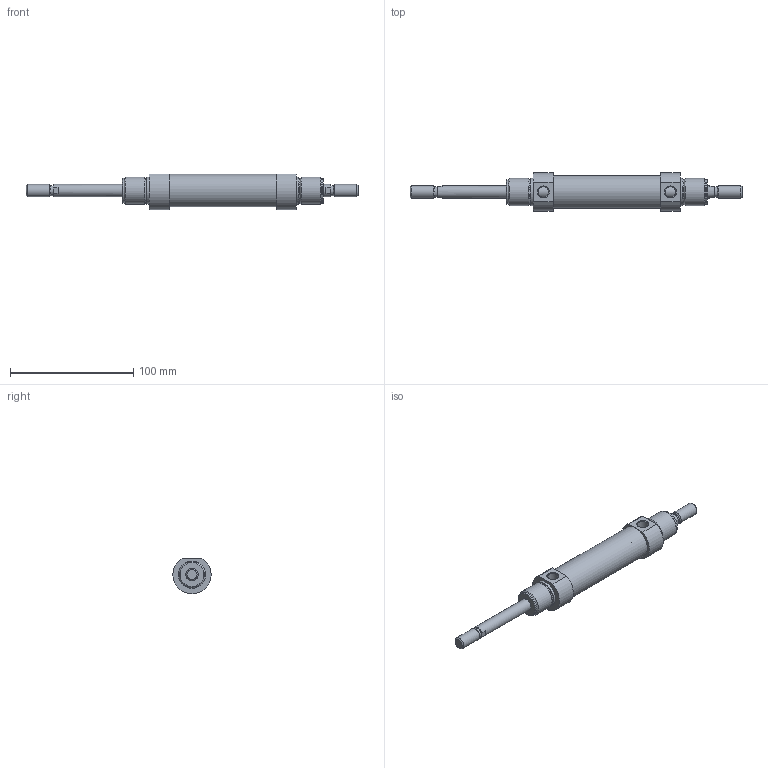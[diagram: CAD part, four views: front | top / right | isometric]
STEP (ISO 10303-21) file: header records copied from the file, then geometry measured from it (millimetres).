
FILE_DESCRIPTION( ( 'STEP AP203' ), '1' );
FILE_NAME( '//expscmdclustefs.cadenas.external/client_exchange/iodir/jobs/output/wkb68469438_no0/STEP/M101-025-0050-M__0__2_03.stp', ' ', ( ' ' ), ( ' ' ), 'PSStep 15.0.47', 'PARTsolutions', ' ' );
FILE_SCHEMA( ( 'CONFIG_CONTROL_DESIGN' ) );
Length unit declared in the file: millimetre
Products named in the file (3): M101-025-0050-M [0]; HI_M101-025-0050-M-[0]-z; HI_M101-025-0050-M-[0]-k
Assembly tree (2 placements, depth 2):
  M101-025-0050-M [0]
    HI_M101-025-0050-M-[0]-z
    HI_M101-025-0050-M-[0]-k
Bounding box: 269 x 31 x 28.79 mm (x, y, z)
Volume: 74513 mm3; surface area: 34011.3 mm2
Topology: 2 solids, 2 shells, 63 faces, 123 edges, 74 vertices
Faces by surface type: plane 28, cylinder 23, cone 10, torus 2
Full cylindrical faces by diameter (mm): 8.16 x2, 8.566 x2, 10 x6, 20.16 x4, 22 x4, 25 x2, 26.6 x1
Entity records: 1700 total; most frequent: CARTESIAN_POINT 390, DIRECTION 276, ORIENTED_EDGE 176, AXIS2_PLACEMENT_3D 124, EDGE_LOOP 112, EDGE_CURVE 88, FACE_OUTER_BOUND 86, VERTEX_POINT 72
